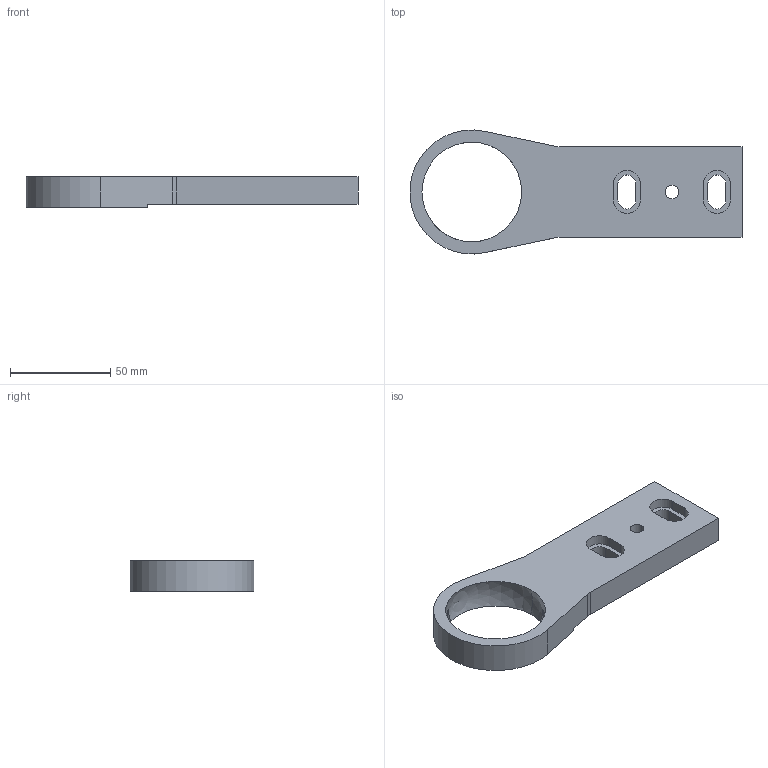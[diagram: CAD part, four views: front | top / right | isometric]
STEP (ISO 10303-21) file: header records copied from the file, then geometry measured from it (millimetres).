
FILE_DESCRIPTION (( 'STEP AP203' ), '1' );
FILE_NAME ('1000.50.00.003-1.STEP', '2013-02-01T09:53:02', ( 'Alusic' ), ( 'Alusic' ), 'SwSTEP 2.0', 'SolidWorks 2011', '' );
FILE_SCHEMA (( 'CONFIG_CONTROL_DESIGN' ));
Length unit declared in the file: millimetre
Products named in the file (1): 1000.50.00.003-1
Bounding box: 165.89 x 61.95 x 15 mm (x, y, z)
Volume: 73558.4 mm3; surface area: 22295.6 mm2
Topology: 1 solids, 1 shells, 64 faces, 175 edges, 109 vertices
Faces by surface type: plane 27, cylinder 26, cone 8, sphere 3
Entity records: 2022 total; most frequent: DIRECTION 355, CARTESIAN_POINT 331, ORIENTED_EDGE 322, EDGE_CURVE 161, AXIS2_PLACEMENT_3D 130, VERTEX_POINT 106, LINE 95, VECTOR 95
